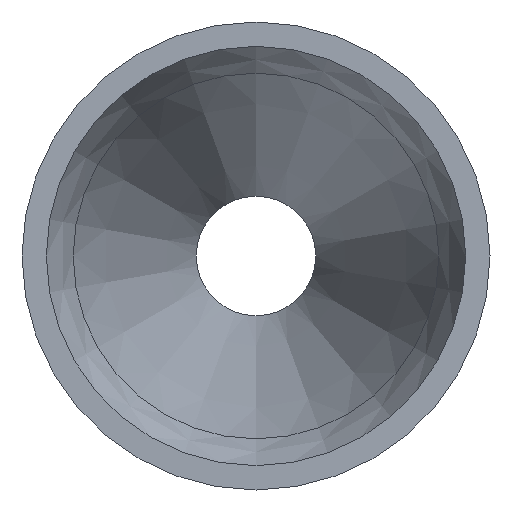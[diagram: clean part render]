
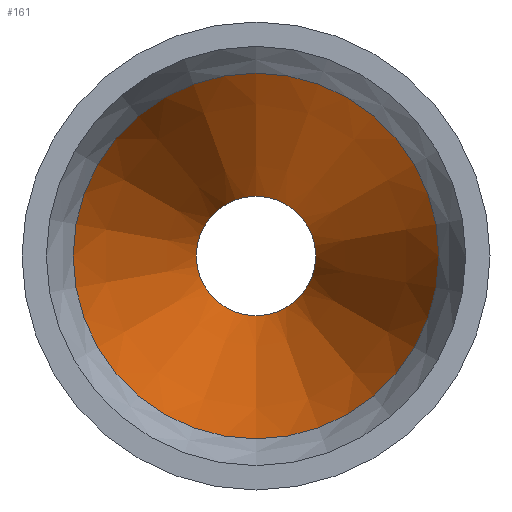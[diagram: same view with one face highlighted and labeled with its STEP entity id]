
A CAD part, left-side view. The second image highlights one B-rep face of the part: STEP entity #161.
In plain terms, the highlighted conical face has half-angle 16.545 degrees and reference radius 7.5 mm.
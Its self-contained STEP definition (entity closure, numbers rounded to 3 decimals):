
#21 = CIRCLE ( 'NONE', #156, 2.45 ) ;
#22 = CARTESIAN_POINT ( 'NONE',  ( 290.855, 0., 0. ) ) ;
#32 = CONICAL_SURFACE ( 'NONE', #180, 7.5, 0.289 ) ;
#45 = FACE_BOUND ( 'NONE', #172, .T. ) ;
#54 = EDGE_LOOP ( 'NONE', ( #152 ) ) ;
#63 = CARTESIAN_POINT ( 'NONE',  ( 290.855, 0., 2.45 ) ) ;
#84 = DIRECTION ( 'NONE',  ( 0., 0., 1. ) ) ;
#89 = CARTESIAN_POINT ( 'NONE',  ( 273.855, 0., 7.5 ) ) ;
#138 = DIRECTION ( 'NONE',  ( 0., 0., 1. ) ) ;
#152 = ORIENTED_EDGE ( 'NONE', *, *, #287, .F. ) ;
#156 = AXIS2_PLACEMENT_3D ( 'NONE', #22, #256, #84 ) ;
#159 = VERTEX_POINT ( 'NONE', #89 ) ;
#161 = ADVANCED_FACE ( 'NONE', ( #249, #45 ), #32, .F. ) ;
#169 = VERTEX_POINT ( 'NONE', #63 ) ;
#172 = EDGE_LOOP ( 'NONE', ( #261 ) ) ;
#180 = AXIS2_PLACEMENT_3D ( 'NONE', #211, #227, #233 ) ;
#182 = CARTESIAN_POINT ( 'NONE',  ( 273.855, 0., 0. ) ) ;
#205 = CIRCLE ( 'NONE', #242, 7.5 ) ;
#211 = CARTESIAN_POINT ( 'NONE',  ( 273.855, 0., 0. ) ) ;
#227 = DIRECTION ( 'NONE',  ( -1., 0., 0. ) ) ;
#233 = DIRECTION ( 'NONE',  ( 0., -1., 0. ) ) ;
#242 = AXIS2_PLACEMENT_3D ( 'NONE', #182, #272, #138 ) ;
#249 = FACE_OUTER_BOUND ( 'NONE', #54, .T. ) ;
#256 = DIRECTION ( 'NONE',  ( 1., 0., 0. ) ) ;
#261 = ORIENTED_EDGE ( 'NONE', *, *, #280, .T. ) ;
#272 = DIRECTION ( 'NONE',  ( 1., 0., 0. ) ) ;
#280 = EDGE_CURVE ( 'NONE', #169, #169, #21, .T. ) ;
#287 = EDGE_CURVE ( 'NONE', #159, #159, #205, .T. ) ;
